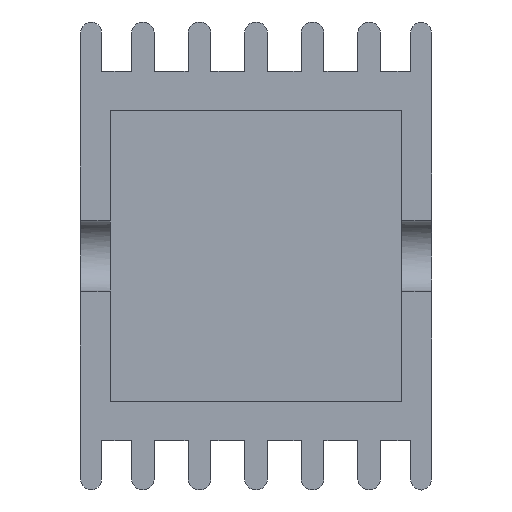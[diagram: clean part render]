
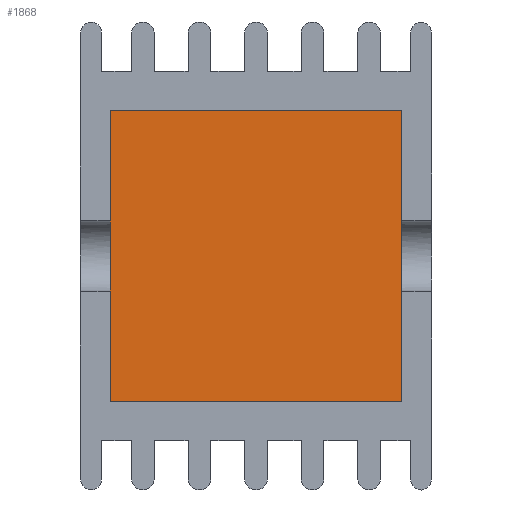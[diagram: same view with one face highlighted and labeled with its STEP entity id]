
A CAD part, left-side view. The second image highlights one B-rep face of the part: STEP entity #1868.
In plain terms, the highlighted planar face has unit normal (-1, 0, 0).
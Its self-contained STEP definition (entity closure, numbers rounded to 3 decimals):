
#14=LINE($,#2677,#218);
#15=LINE($,#2681,#219);
#16=LINE($,#2683,#220);
#17=LINE($,#2685,#221);
#18=LINE($,#2687,#222);
#19=LINE($,#2689,#223);
#20=LINE($,#2690,#224);
#21=LINE($,#2691,#225);
#218=VECTOR($,#2164,2.291);
#219=VECTOR($,#2167,22.4);
#220=VECTOR($,#2168,10.054);
#221=VECTOR($,#2169,2.291);
#222=VECTOR($,#2170,10.054);
#223=VECTOR($,#2171,22.4);
#224=VECTOR($,#2172,10.054);
#225=VECTOR($,#2173,10.054);
#427=PLANE($,#1980);
#512=FACE_OUTER_BOUND($,#613,.T.);
#613=EDGE_LOOP($,(#1222,#1223,#1224,#1225,#1226,#1227,#1228,#1229));
#776=VERTEX_POINT($,#2674);
#777=VERTEX_POINT($,#2675);
#778=VERTEX_POINT($,#2679);
#779=VERTEX_POINT($,#2680);
#780=VERTEX_POINT($,#2682);
#781=VERTEX_POINT($,#2684);
#782=VERTEX_POINT($,#2686);
#783=VERTEX_POINT($,#2688);
#953=EDGE_CURVE($,#776,#777,#14,.T.);
#954=EDGE_CURVE($,#778,#779,#15,.T.);
#955=EDGE_CURVE($,#780,#778,#16,.T.);
#956=EDGE_CURVE($,#780,#781,#17,.T.);
#957=EDGE_CURVE($,#782,#781,#18,.T.);
#958=EDGE_CURVE($,#783,#782,#19,.T.);
#959=EDGE_CURVE($,#776,#783,#20,.T.);
#960=EDGE_CURVE($,#779,#777,#21,.T.);
#1222=ORIENTED_EDGE($,*,*,#954,.F.);
#1223=ORIENTED_EDGE($,*,*,#955,.F.);
#1224=ORIENTED_EDGE($,*,*,#956,.T.);
#1225=ORIENTED_EDGE($,*,*,#957,.F.);
#1226=ORIENTED_EDGE($,*,*,#958,.F.);
#1227=ORIENTED_EDGE($,*,*,#959,.F.);
#1228=ORIENTED_EDGE($,*,*,#953,.T.);
#1229=ORIENTED_EDGE($,*,*,#960,.F.);
#1868=ADVANCED_FACE($,(#512),#427,.T.);
#1980=AXIS2_PLACEMENT_3D($,#2678,#2165,#2166);
#2164=DIRECTION($,(0.,0.,1.));
#2165=DIRECTION('center_axis',(-1.,0.,0.));
#2166=DIRECTION('ref_axis',(0.,0.,1.));
#2167=DIRECTION($,(0.,-1.,0.));
#2168=DIRECTION($,(0.,0.,1.));
#2169=DIRECTION($,(0.,0.,-1.));
#2170=DIRECTION($,(0.,0.,1.));
#2171=DIRECTION($,(0.,1.,0.));
#2172=DIRECTION($,(0.,0.,-1.));
#2173=DIRECTION($,(0.,0.,-1.));
#2674=CARTESIAN_POINT('',(-157.312,7.001,25.692));
#2675=CARTESIAN_POINT('',(-157.312,7.001,27.983));
#2677=CARTESIAN_POINT($,(-157.312,7.001,38.037));
#2678=CARTESIAN_POINT('Origin',(-157.312,18.201,26.837));
#2679=CARTESIAN_POINT('',(-157.312,29.401,38.037));
#2680=CARTESIAN_POINT('',(-157.312,7.001,38.037));
#2681=CARTESIAN_POINT($,(-157.312,12.601,38.037));
#2682=CARTESIAN_POINT('',(-157.312,29.401,27.983));
#2683=CARTESIAN_POINT($,(-157.312,29.401,32.437));
#2684=CARTESIAN_POINT('',(-157.312,29.401,25.692));
#2685=CARTESIAN_POINT($,(-157.312,29.401,15.637));
#2686=CARTESIAN_POINT('',(-157.312,29.401,15.637));
#2687=CARTESIAN_POINT($,(-157.312,29.401,32.437));
#2688=CARTESIAN_POINT('',(-157.312,7.001,15.637));
#2689=CARTESIAN_POINT($,(-157.312,23.801,15.637));
#2690=CARTESIAN_POINT($,(-157.312,7.001,21.237));
#2691=CARTESIAN_POINT($,(-157.312,7.001,21.237));
